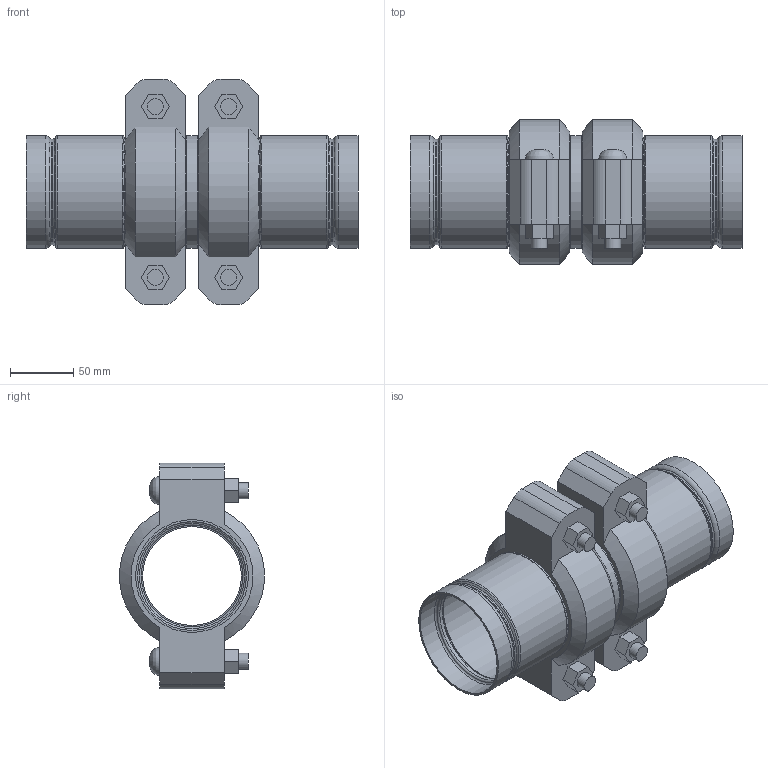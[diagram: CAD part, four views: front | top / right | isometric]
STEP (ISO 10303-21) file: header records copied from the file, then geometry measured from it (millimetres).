
FILE_DESCRIPTION(/* description */ ('VIC STRENGTHIN 100 EXPANSION JOINT 2 COUPLINGS COMPRESSED STYLE E155 (ST1)','CAx-IF Rec.Pracs.---Representation and Presentation of Product Manufacturing Information (PMI)---4.0---2014-10-13'),/* implementation_level */ '2;1');
FILE_NAME(/* name */ 'C:\Users\Vjadhav\AppData\Roaming\Autodesk\ApplicationPlugins\Victaulic.Temp\A523\Victaulic_SS-StrengThin 100_Expansion Joint_Compressed_2 Couplings_Style E155 (ST1)_3 (80).stp',/* time_stamp */ '2021-07-23T12:29:06+06:00',/* author */ ('kkamble'),/* organization */ ('Victaulic'),/* preprocessor_version */ 'ST-DEVELOPER v17.2',/* originating_system */ 'Autodesk Inventor 2019',/* authorisation */ '');
FILE_SCHEMA (('AP242_MANAGED_MODEL_BASED_3D_ENGINEERING_MIM_LF { 1 0 10303 442 1 1 4 }'));
Length unit declared in the file: inch
Products named in the file (4): E155-03.0; E494G-03.0; Nipple-03.0; 075-03.0
Assembly tree (5 placements, depth 2):
  E155-03.0
    E494G-03.0  x2
    Nipple-03.0
    075-03.0  x2
Bounding box: 261.62 x 113.88 x 177.8 mm (x, y, z)
Volume: 831208.4 mm3; surface area: 271299.1 mm2
Topology: 5 solids, 9 shells, 186 faces, 506 edges, 362 vertices
Faces by surface type: plane 86, cylinder 52, torus 32, cone 12, bspline 4
Full cylindrical faces by diameter (mm): 12.7 x8, 14.605 x4, 77.927 x1, 79.985 x2, 81.737 x2, 83.185 x2, 84.938 x4, 85.7 x6, 88.9 x11
Entity records: 3599 total; most frequent: CARTESIAN_POINT 637, DIRECTION 635, ORIENTED_EDGE 536, AXIS2_PLACEMENT_3D 269, EDGE_CURVE 268, VERTEX_POINT 193, CIRCLE 163, EDGE_LOOP 123
